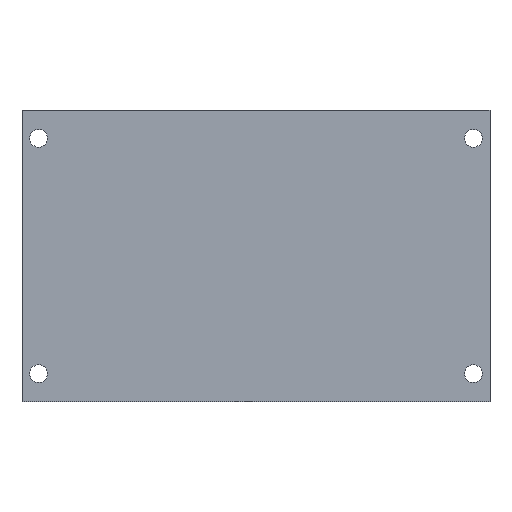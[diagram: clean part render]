
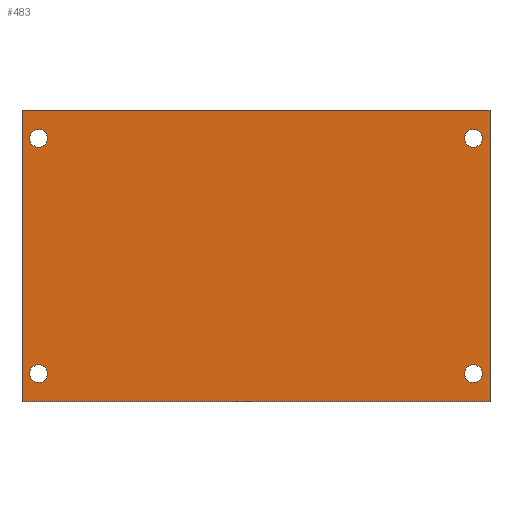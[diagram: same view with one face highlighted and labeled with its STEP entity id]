
A CAD part, front view. The second image highlights one B-rep face of the part: STEP entity #483.
In plain terms, the highlighted planar face has unit normal (0, -1, 0).
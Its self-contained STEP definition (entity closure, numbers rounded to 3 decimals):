
#138=CARTESIAN_POINT('',(77.1,0.0,-47.6));
#139=VERTEX_POINT('',#138);
#140=CARTESIAN_POINT('',(75.5,0.0,-47.6));
#141=DIRECTION('',(0.0,1.0,0.0));
#142=DIRECTION('',(-1.0,0.0,0.0));
#143=AXIS2_PLACEMENT_3D('',#140,#141,#142);
#144=CIRCLE('',#143,1.6);
#145=EDGE_CURVE('',#139,#139,#144,.T.);
#166=CARTESIAN_POINT('',(-1.4,0.0,-47.6));
#167=VERTEX_POINT('',#166);
#168=CARTESIAN_POINT('',(-3.,0.0,-47.6));
#169=DIRECTION('',(0.0,1.0,0.0));
#170=DIRECTION('',(-1.0,0.0,0.0));
#171=AXIS2_PLACEMENT_3D('',#168,#169,#170);
#172=CIRCLE('',#171,1.6);
#173=EDGE_CURVE('',#167,#167,#172,.T.);
#186=CARTESIAN_POINT('',(77.1,0.0,-5.1));
#187=VERTEX_POINT('',#186);
#188=CARTESIAN_POINT('',(75.5,0.0,-5.1));
#189=DIRECTION('',(0.0,1.0,0.0));
#190=DIRECTION('',(-1.0,0.0,0.0));
#191=AXIS2_PLACEMENT_3D('',#188,#189,#190);
#192=CIRCLE('',#191,1.6);
#193=EDGE_CURVE('',#187,#187,#192,.T.);
#214=CARTESIAN_POINT('',(-1.4,0.0,-5.1));
#215=VERTEX_POINT('',#214);
#216=CARTESIAN_POINT('',(-3.,0.0,-5.1));
#217=DIRECTION('',(0.0,1.0,0.0));
#218=DIRECTION('',(-1.0,0.0,0.0));
#219=AXIS2_PLACEMENT_3D('',#216,#217,#218);
#220=CIRCLE('',#219,1.6);
#221=EDGE_CURVE('',#215,#215,#220,.T.);
#231=CARTESIAN_POINT('',(-6.,0.0,-52.7));
#232=VERTEX_POINT('',#231);
#233=CARTESIAN_POINT('',(-6.,0.0,0.));
#234=VERTEX_POINT('',#233);
#235=CARTESIAN_POINT('',(-6.,0.0,-52.7));
#236=DIRECTION('',(0.0,0.0,1.0));
#237=VECTOR('',#236,52.7);
#238=LINE('',#235,#237);
#239=EDGE_CURVE('',#232,#234,#238,.T.);
#271=CARTESIAN_POINT('',(78.5,0.0,0.));
#272=VERTEX_POINT('',#271);
#273=CARTESIAN_POINT('',(78.5,0.0,-52.7));
#274=VERTEX_POINT('',#273);
#275=CARTESIAN_POINT('',(78.5,0.0,0.));
#276=DIRECTION('',(0.0,0.0,-1.0));
#277=VECTOR('',#276,52.7);
#278=LINE('',#275,#277);
#279=EDGE_CURVE('',#272,#274,#278,.T.);
#387=CARTESIAN_POINT('',(-6.,0.0,0.));
#388=DIRECTION('',(1.0,0.0,0.0));
#389=VECTOR('',#388,84.5);
#390=LINE('',#387,#389);
#391=EDGE_CURVE('',#234,#272,#390,.T.);
#420=CARTESIAN_POINT('',(78.5,0.0,-52.7));
#421=DIRECTION('',(-1.0,0.0,0.0));
#422=VECTOR('',#421,84.5);
#423=LINE('',#420,#422);
#424=EDGE_CURVE('',#274,#232,#423,.T.);
#460=CARTESIAN_POINT('',(36.25,0.0,-26.35));
#461=DIRECTION('',(0.0,-1.0,0.0));
#462=DIRECTION('',(0.0,0.0,-1.0));
#463=AXIS2_PLACEMENT_3D('',#460,#461,#462);
#464=PLANE('',#463);
#465=ORIENTED_EDGE('',*,*,#391,.F.);
#466=ORIENTED_EDGE('',*,*,#239,.F.);
#467=ORIENTED_EDGE('',*,*,#424,.F.);
#468=ORIENTED_EDGE('',*,*,#279,.F.);
#469=EDGE_LOOP('',(#465,#466,#467,#468));
#470=FACE_OUTER_BOUND('',#469,.T.);
#471=ORIENTED_EDGE('',*,*,#173,.T.);
#472=EDGE_LOOP('',(#471));
#473=FACE_BOUND('',#472,.T.);
#474=ORIENTED_EDGE('',*,*,#221,.T.);
#475=EDGE_LOOP('',(#474));
#476=FACE_BOUND('',#475,.T.);
#477=ORIENTED_EDGE('',*,*,#193,.T.);
#478=EDGE_LOOP('',(#477));
#479=FACE_BOUND('',#478,.T.);
#480=ORIENTED_EDGE('',*,*,#145,.T.);
#481=EDGE_LOOP('',(#480));
#482=FACE_BOUND('',#481,.T.);
#483=ADVANCED_FACE('',(#470,#473,#476,#479,#482),#464,.T.);
